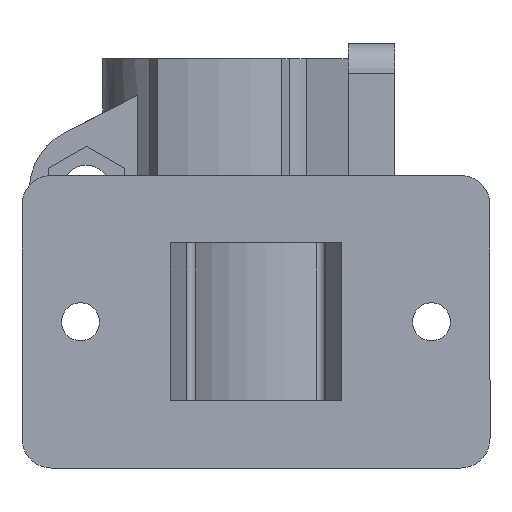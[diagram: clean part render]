
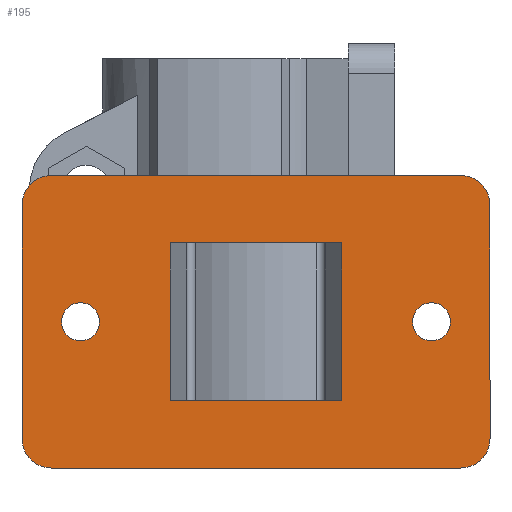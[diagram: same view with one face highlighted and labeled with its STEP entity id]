
A CAD part, front view. The second image highlights one B-rep face of the part: STEP entity #195.
In plain terms, the highlighted planar face has unit normal (0, -1, 0) as drawn and (1, 0, 0) by its records, which use the part's own axes.
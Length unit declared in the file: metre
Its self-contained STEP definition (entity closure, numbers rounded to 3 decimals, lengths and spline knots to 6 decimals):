
#195 = ADVANCED_FACE( '', ( #396, #397, #398, #399 ), #400, .T. );
#396 = FACE_BOUND( '', #613, .T. );
#397 = FACE_OUTER_BOUND( '', #614, .T. );
#398 = FACE_BOUND( '', #615, .T. );
#399 = FACE_BOUND( '', #616, .T. );
#400 = PLANE( '', #617 );
#613 = EDGE_LOOP( '', ( #1115 ) );
#614 = EDGE_LOOP( '', ( #1116, #1117, #1118, #1119, #1120, #1121, #1122, #1123 ) );
#615 = EDGE_LOOP( '', ( #1124 ) );
#616 = EDGE_LOOP( '', ( #1125, #1126, #1127, #1128 ) );
#617 = AXIS2_PLACEMENT_3D( '', #1129, #1130, #1131 );
#1115 = ORIENTED_EDGE( '', *, *, #1500, .T. );
#1116 = ORIENTED_EDGE( '', *, *, #1447, .T. );
#1117 = ORIENTED_EDGE( '', *, *, #1553, .T. );
#1118 = ORIENTED_EDGE( '', *, *, #1554, .T. );
#1119 = ORIENTED_EDGE( '', *, *, #1555, .T. );
#1120 = ORIENTED_EDGE( '', *, *, #1556, .T. );
#1121 = ORIENTED_EDGE( '', *, *, #1557, .T. );
#1122 = ORIENTED_EDGE( '', *, *, #1455, .T. );
#1123 = ORIENTED_EDGE( '', *, *, #1476, .T. );
#1124 = ORIENTED_EDGE( '', *, *, #1558, .T. );
#1125 = ORIENTED_EDGE( '', *, *, #1375, .T. );
#1126 = ORIENTED_EDGE( '', *, *, #1549, .F. );
#1127 = ORIENTED_EDGE( '', *, *, #1466, .F. );
#1128 = ORIENTED_EDGE( '', *, *, #1539, .T. );
#1129 = CARTESIAN_POINT( '', ( 0.03, -0.035, 0.0425 ) );
#1130 = DIRECTION( '', ( 1., 0., 0. ) );
#1131 = DIRECTION( '', ( 0., 1., 0. ) );
#1375 = EDGE_CURVE( '', #1691, #1688, #1692, .T. );
#1447 = EDGE_CURVE( '', #1818, #1816, #1819, .T. );
#1455 = EDGE_CURVE( '', #1831, #1829, #1832, .T. );
#1466 = EDGE_CURVE( '', #1847, #1841, #1849, .T. );
#1476 = EDGE_CURVE( '', #1829, #1818, #1861, .T. );
#1500 = EDGE_CURVE( '', #1895, #1895, #1896, .F. );
#1539 = EDGE_CURVE( '', #1847, #1691, #1950, .T. );
#1549 = EDGE_CURVE( '', #1841, #1688, #1961, .T. );
#1553 = EDGE_CURVE( '', #1816, #1965, #1966, .T. );
#1554 = EDGE_CURVE( '', #1965, #1967, #1968, .T. );
#1555 = EDGE_CURVE( '', #1967, #1969, #1970, .T. );
#1556 = EDGE_CURVE( '', #1969, #1971, #1972, .T. );
#1557 = EDGE_CURVE( '', #1971, #1831, #1973, .T. );
#1558 = EDGE_CURVE( '', #1974, #1974, #1975, .F. );
#1688 = VERTEX_POINT( '', #2267 );
#1691 = VERTEX_POINT( '', #2271 );
#1692 = LINE( '', #2272, #2273 );
#1816 = VERTEX_POINT( '', #2440 );
#1818 = VERTEX_POINT( '', #2443 );
#1819 = LINE( '', #2444, #2445 );
#1829 = VERTEX_POINT( '', #2458 );
#1831 = VERTEX_POINT( '', #2461 );
#1832 = LINE( '', #2462, #2463 );
#1841 = VERTEX_POINT( '', #2476 );
#1847 = VERTEX_POINT( '', #2483 );
#1849 = LINE( '', #2486, #2487 );
#1861 = CIRCLE( '', #2503, 0.005 );
#1895 = VERTEX_POINT( '', #2550 );
#1896 = CIRCLE( '', #2551, 0.00325 );
#1950 = LINE( '', #2621, #2622 );
#1961 = LINE( '', #2637, #2638 );
#1965 = VERTEX_POINT( '', #2643 );
#1966 = CIRCLE( '', #2644, 0.005 );
#1967 = VERTEX_POINT( '', #2645 );
#1968 = LINE( '', #2646, #2647 );
#1969 = VERTEX_POINT( '', #2648 );
#1970 = CIRCLE( '', #2649, 0.005 );
#1971 = VERTEX_POINT( '', #2650 );
#1972 = LINE( '', #2651, #2652 );
#1973 = CIRCLE( '', #2653, 0.005 );
#1974 = VERTEX_POINT( '', #2654 );
#1975 = CIRCLE( '', #2655, 0.00325 );
#2267 = CARTESIAN_POINT( '', ( 0.03, 0.014648, 0.036 ) );
#2271 = CARTESIAN_POINT( '', ( 0.03, -0.014648, 0.036 ) );
#2272 = CARTESIAN_POINT( '', ( 0.03, -0.014648, 0.036 ) );
#2273 = VECTOR( '', #2768, 1. );
#2440 = CARTESIAN_POINT( '', ( 0.03, -0.035, 0.0475 ) );
#2443 = CARTESIAN_POINT( '', ( 0.03, 0.035, 0.0475 ) );
#2444 = CARTESIAN_POINT( '', ( 0.03, 0.035, 0.0475 ) );
#2445 = VECTOR( '', #2861, 1. );
#2458 = CARTESIAN_POINT( '', ( 0.03, 0.04, 0.0425 ) );
#2461 = CARTESIAN_POINT( '', ( 0.03, 0.04, 0.0025 ) );
#2462 = CARTESIAN_POINT( '', ( 0.03, 0.04, 0.0025 ) );
#2463 = VECTOR( '', #2869, 1. );
#2476 = CARTESIAN_POINT( '', ( 0.03, 0.014648, 0.009 ) );
#2483 = CARTESIAN_POINT( '', ( 0.03, -0.014648, 0.009 ) );
#2486 = CARTESIAN_POINT( '', ( 0.03, -0.014648, 0.009 ) );
#2487 = VECTOR( '', #2882, 1. );
#2503 = AXIS2_PLACEMENT_3D( '', #2893, #2894, #2895 );
#2550 = CARTESIAN_POINT( '', ( 0.03, 0.03325, 0.0225 ) );
#2551 = AXIS2_PLACEMENT_3D( '', #2921, #2922, #2923 );
#2621 = CARTESIAN_POINT( '', ( 0.03, -0.014648, 0.009 ) );
#2622 = VECTOR( '', #2976, 1. );
#2637 = CARTESIAN_POINT( '', ( 0.03, 0.014648, 0.009 ) );
#2638 = VECTOR( '', #2981, 1. );
#2643 = CARTESIAN_POINT( '', ( 0.03, -0.04, 0.0425 ) );
#2644 = AXIS2_PLACEMENT_3D( '', #2983, #2984, #2985 );
#2645 = CARTESIAN_POINT( '', ( 0.03, -0.04, 0.0025 ) );
#2646 = CARTESIAN_POINT( '', ( 0.03, -0.04, 0.0425 ) );
#2647 = VECTOR( '', #2986, 1. );
#2648 = CARTESIAN_POINT( '', ( 0.03, -0.035, -0.0025 ) );
#2649 = AXIS2_PLACEMENT_3D( '', #2987, #2988, #2989 );
#2650 = CARTESIAN_POINT( '', ( 0.03, 0.035, -0.0025 ) );
#2651 = CARTESIAN_POINT( '', ( 0.03, -0.035, -0.0025 ) );
#2652 = VECTOR( '', #2990, 1. );
#2653 = AXIS2_PLACEMENT_3D( '', #2991, #2992, #2993 );
#2654 = CARTESIAN_POINT( '', ( 0.03, -0.02675, 0.0225 ) );
#2655 = AXIS2_PLACEMENT_3D( '', #2994, #2995, #2996 );
#2768 = DIRECTION( '', ( 0., 1., 0. ) );
#2861 = DIRECTION( '', ( 0., -1., 0. ) );
#2869 = DIRECTION( '', ( 0., 0., 1. ) );
#2882 = DIRECTION( '', ( 0., 1., 0. ) );
#2893 = CARTESIAN_POINT( '', ( 0.03, 0.035, 0.0425 ) );
#2894 = DIRECTION( '', ( 1., 0., 0. ) );
#2895 = DIRECTION( '', ( 0., 1., 0. ) );
#2921 = CARTESIAN_POINT( '', ( 0.03, 0.03, 0.0225 ) );
#2922 = DIRECTION( '', ( 1., 0., 0. ) );
#2923 = DIRECTION( '', ( 0., 1., 0. ) );
#2976 = DIRECTION( '', ( 0., 0., 1. ) );
#2981 = DIRECTION( '', ( 0., 0., 1. ) );
#2983 = CARTESIAN_POINT( '', ( 0.03, -0.035, 0.0425 ) );
#2984 = DIRECTION( '', ( 1., 0., 0. ) );
#2985 = DIRECTION( '', ( 0., 1., 0. ) );
#2986 = DIRECTION( '', ( 0., 0., -1. ) );
#2987 = CARTESIAN_POINT( '', ( 0.03, -0.035, 0.0025 ) );
#2988 = DIRECTION( '', ( 1., 0., 0. ) );
#2989 = DIRECTION( '', ( 0., 1., 0. ) );
#2990 = DIRECTION( '', ( 0., 1., 0. ) );
#2991 = CARTESIAN_POINT( '', ( 0.03, 0.035, 0.0025 ) );
#2992 = DIRECTION( '', ( 1., 0., 0. ) );
#2993 = DIRECTION( '', ( 0., -1., 0. ) );
#2994 = CARTESIAN_POINT( '', ( 0.03, -0.03, 0.0225 ) );
#2995 = DIRECTION( '', ( 1., 0., 0. ) );
#2996 = DIRECTION( '', ( 0., 1., 0. ) );
